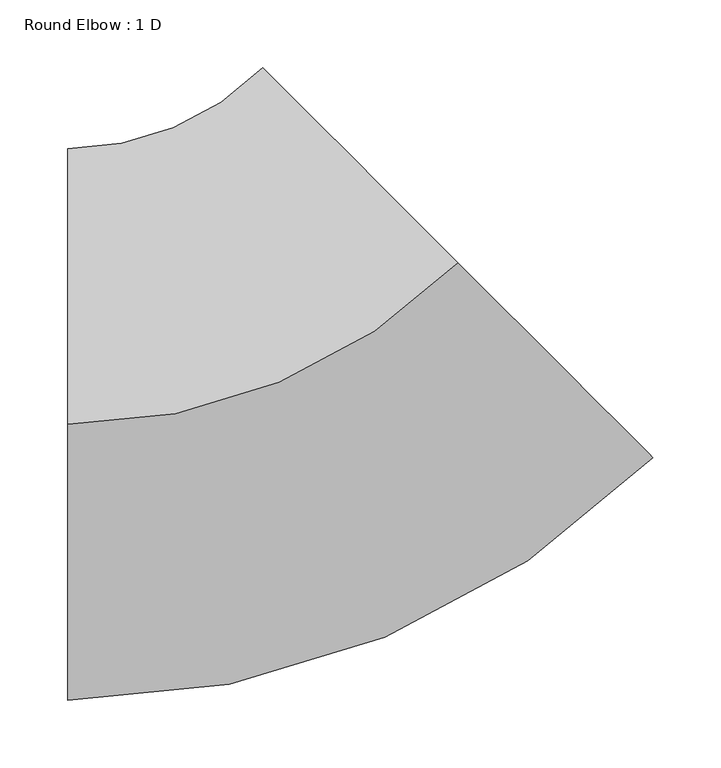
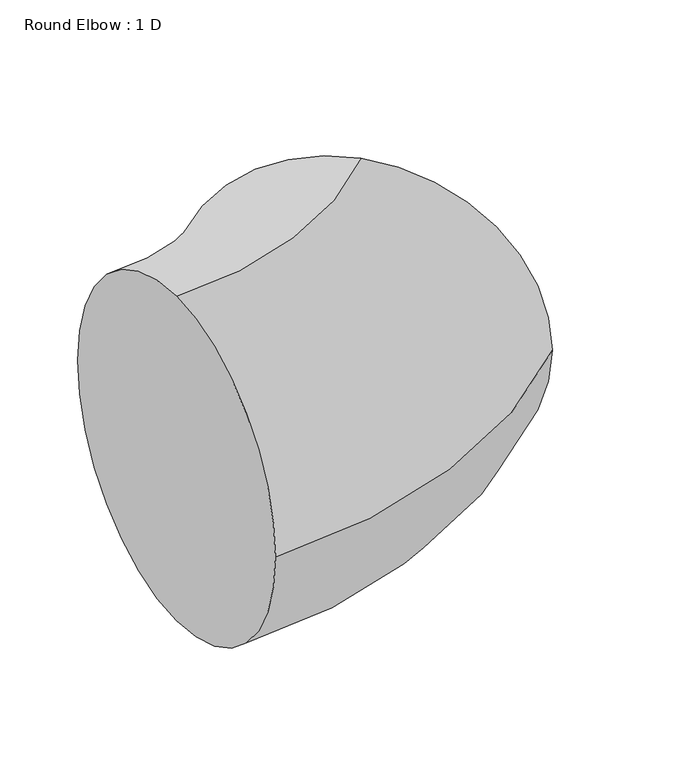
"""IFC4 building model written with IfcOpenShell, lengths in millimetres: duct fitting geometry, Round Elbow : 1 D."""

from ifc_helpers import new_model, si_unit, point, frame, origin, place, context, project, spatial, circle_curve, ellipse_curve, trimmed, source, transform, mapped, element, save
from ifc_brep_helpers import plane_surface, revolved_surface, advanced_brep


def round_elbow_1_d_880e4a00(model_context):
    return source(origin(), model_context, "Body", "AdvancedBrep", [
        advanced_brep(
        [(-168.4263619, 0.0, 203.2), (-168.4263619, 203.2, 0.0), (-168.4263619, 0.0, -203.2), (-168.4263619, -203.2, 0.0), (119.0504085, 119.1404197, 203.2), (262.7887938, -24.4893704, 0.0), (119.0504085, 119.1404197, -203.2), (-24.6879767, 262.7702099, 0.0)],
        [
            (0, 1, circle_curve(frame((-168.4263619, 0.0, 0.0), z_axis=(-1.0, 0.0, 0.0), x_axis=(0.0, 1.0, 0.0)), 203.2)),
            (1, 2, circle_curve(frame((-168.4263619, 0.0, 0.0), z_axis=(-1.0, 0.0, 0.0), x_axis=(0.0, 1.0, 0.0)), 203.2)),
            (2, 3, circle_curve(frame((-168.4263619, 0.0, 0.0), z_axis=(-1.0, 0.0, 0.0), x_axis=(0.0, 1.0, 0.0)), 203.2)),
            (3, 0, circle_curve(frame((-168.4263619, 0.0, 0.0), z_axis=(-1.0, 0.0, 0.0), x_axis=(0.0, 1.0, 0.0)), 203.2)),
            (4, 5, circle_curve(frame((119.0504085, 119.1404197, 0.0), z_axis=(0.7068395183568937, 0.7073739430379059, 0.0), x_axis=(-0.7073739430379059, 0.7068395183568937, 0.0)), 203.2)),
            (5, 6, circle_curve(frame((119.0504085, 119.1404197, 0.0), z_axis=(0.7068395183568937, 0.7073739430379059, 0.0), x_axis=(-0.7073739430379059, 0.7068395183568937, 0.0)), 203.2)),
            (6, 7, circle_curve(frame((119.0504085, 119.1404197, 0.0), z_axis=(0.7068395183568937, 0.7073739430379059, 0.0), x_axis=(-0.7073739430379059, 0.7068395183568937, 0.0)), 203.2)),
            (7, 4, circle_curve(frame((119.0504085, 119.1404197, 0.0), z_axis=(0.7068395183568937, 0.7073739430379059, 0.0), x_axis=(-0.7073739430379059, 0.7068395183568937, 0.0)), 203.2)),
            (7, 1, circle_curve(frame((-168.4263619, 406.4, 0.0), z_axis=(0.0, 0.0, -1.0), x_axis=(0.0, -1.0, 0.0)), 203.2)),
            (0, 4, circle_curve(frame((-168.4263619, 406.4, 203.2), z_axis=(0.0, 0.0, 1.0), x_axis=(0.0, -1.0, 0.0)), 406.4)),
            (6, 2, circle_curve(frame((-168.4263619, 406.4, -203.2), z_axis=(0.0, 0.0, -1.0), x_axis=(0.0, -1.0, 0.0)), 406.4)),
            (5, 3, circle_curve(frame((-168.4263619, 406.4, 0.0), z_axis=(0.0, 0.0, -1.0), x_axis=(0.0, -1.0, 0.0)), 609.6)),
        ],
        [
            plane_surface(frame((-168.4263619, 0.0, 0.0), z_axis=(-1.0, 0.0, 0.0), x_axis=(0.0, 0.0, 1.0))),
            plane_surface(frame((119.0504085, 119.1404197, 0.0), z_axis=(0.7068395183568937, 0.707373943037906, 0.0), x_axis=(0.0, 0.0, 1.0))),
            revolved_surface(trimmed(ellipse_curve(frame((-168.4263619, 0.0, 0.0), z_axis=(-1.0, 0.0, 0.0), x_axis=(0.0, 1.0, 0.0)), 203.2, 203.2), [point((-168.4263619, 0.0, 203.2))], [point((-168.4263619, 203.2, 0.0))], True, "CARTESIAN"), (-168.4263619, 406.4, 0.0), (0.0, 0.0, 1.0)),
            revolved_surface(trimmed(ellipse_curve(frame((-168.4263619, 0.0, 0.0), z_axis=(-1.0, 0.0, 0.0), x_axis=(0.0, 1.0, 0.0)), 203.2, 203.2), [point((-168.4263619, 203.2, 0.0))], [point((-168.4263619, 0.0, -203.2))], True, "CARTESIAN"), (-168.4263619, 406.4, 0.0), (0.0, 0.0, 1.0)),
            revolved_surface(trimmed(ellipse_curve(frame((-168.4263619, 0.0, 0.0), z_axis=(-1.0, 0.0, 0.0), x_axis=(0.0, 1.0, 0.0)), 203.2, 203.2), [point((-168.4263619, 0.0, -203.2))], [point((-168.4263619, -203.2, 0.0))], True, "CARTESIAN"), (-168.4263619, 406.4, 0.0), (0.0, 0.0, 1.0)),
            revolved_surface(trimmed(ellipse_curve(frame((-168.4263619, 0.0, 0.0), z_axis=(-1.0, 0.0, 0.0), x_axis=(0.0, 1.0, 0.0)), 203.2, 203.2), [point((-168.4263619, -203.2, 0.0))], [point((-168.4263619, 0.0, 203.2))], True, "CARTESIAN"), (-168.4263619, 406.4, 0.0), (0.0, 0.0, 1.0)),
        ],
        [
            (0, [[1, 2, 3, 4]]),
            (1, [[5, 6, 7, 8]]),
            (2, [[9, -1, 10, -8]]),
            (3, [[11, -2, -9, -7]]),
            (4, [[12, -3, -11, -6]]),
            (5, [[-10, -4, -12, -5]]),
        ],
    ),
    ])


if __name__ == "__main__":
    model = new_model("IFC4")
    model_context = context("Model", 3, world=origin())
    ifc_project = project(units=[si_unit("LENGTHUNIT", "METRE", prefix="MILLI")], contexts=[model_context])
    site = spatial("IfcSite", under=ifc_project)
    building = spatial("IfcBuilding", under=site)
    placement = place(None, origin())
    round_elbow_1_d_shape = round_elbow_1_d_880e4a00(model_context)
    element("IfcDuctFitting", 1, ObjectType="Round Elbow : 1 D", at=placement, inside=building, context=model_context, shape_type="MappedRepresentation", body=[
        mapped(round_elbow_1_d_shape, transform((0.0, 0.0, 0.0), x_axis=(1.0, 0.0, 0.0), y_axis=(0.0, 1.0, 0.0), z_axis=(0.0, 0.0, 1.0))),
    ])
    save(model, "model.ifc")
